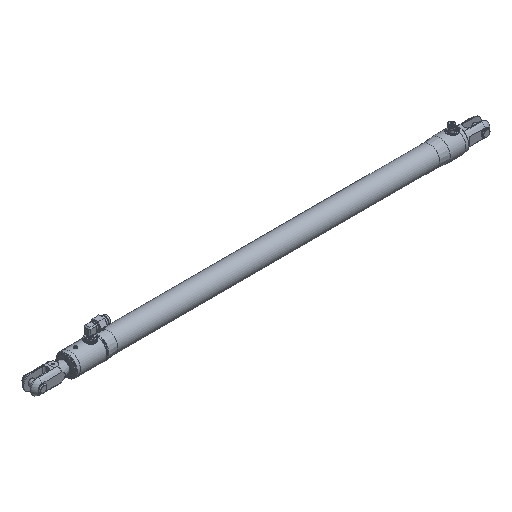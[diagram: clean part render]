
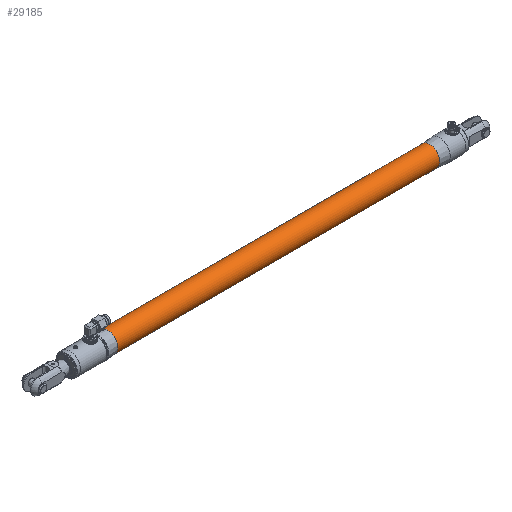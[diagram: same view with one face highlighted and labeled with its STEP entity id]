
A CAD part, isometric view. The second image highlights one B-rep face of the part: STEP entity #29185.
In plain terms, the highlighted cylindrical face has radius 17.6 mm (diameter 35.2 mm), a full revolution.
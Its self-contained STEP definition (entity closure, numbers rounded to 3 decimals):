
#749=CIRCLE('',#30923,17.6);
#750=CIRCLE('',#30925,17.6);
#3519=FACE_BOUND('',#5557,.T.);
#3871=FACE_OUTER_BOUND('',#5556,.T.);
#5556=EDGE_LOOP('',(#21136));
#5557=EDGE_LOOP('',(#21137));
#13902=VERTEX_POINT('',#38546);
#13903=VERTEX_POINT('',#38549);
#16758=EDGE_CURVE('',#13902,#13902,#749,.T.);
#16759=EDGE_CURVE('',#13903,#13903,#750,.T.);
#21136=ORIENTED_EDGE('',*,*,#16759,.T.);
#21137=ORIENTED_EDGE('',*,*,#16758,.F.);
#28993=CYLINDRICAL_SURFACE('',#30924,17.6);
#29185=ADVANCED_FACE('',(#3871,#3519),#28993,.T.);
#30923=AXIS2_PLACEMENT_3D('',#38547,#32576,#32577);
#30924=AXIS2_PLACEMENT_3D('',#38548,#32578,#32579);
#30925=AXIS2_PLACEMENT_3D('',#38550,#32580,#32581);
#32576=DIRECTION('center_axis',(1.,0.,0.));
#32577=DIRECTION('ref_axis',(0.,0.,-1.));
#32578=DIRECTION('center_axis',(1.,0.,0.));
#32579=DIRECTION('ref_axis',(0.,0.,
1.));
#32580=DIRECTION('center_axis',(1.,0.,0.));
#32581=DIRECTION('ref_axis',(0.,0.,-1.));
#38546=CARTESIAN_POINT('',(-37.819,0.,17.6));
#38547=CARTESIAN_POINT('Origin',(-37.819,0.,
0.));
#38548=CARTESIAN_POINT('Origin',(-320.277,0.,
0.));
#38549=CARTESIAN_POINT('',(-602.734,0.,17.6));
#38550=CARTESIAN_POINT('Origin',(-602.734,0.,
0.));
